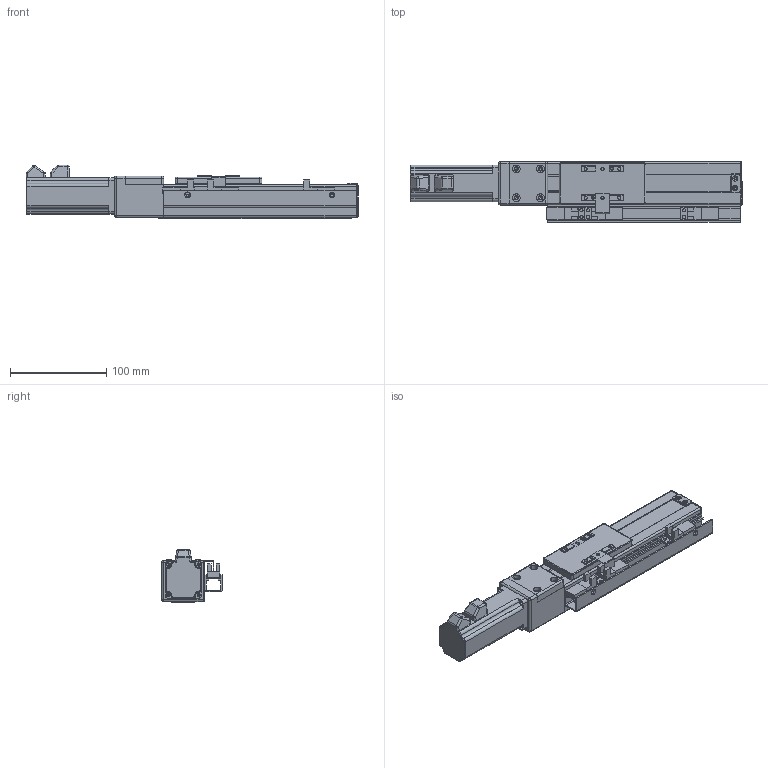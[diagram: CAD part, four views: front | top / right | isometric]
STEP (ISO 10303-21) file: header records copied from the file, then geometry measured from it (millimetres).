
FILE_DESCRIPTION (( 'STEP AP203' ), '1' );
FILE_NAME ('VT4-L12-C-S80-BC-P10-C4.STEP', '2015-10-26T03:44:22', ( '' ), ( '' ), 'SwSTEP 2.0', 'SolidWorks 2013', '' );
FILE_SCHEMA (( 'CONFIG_CONTROL_DESIGN' ));
Length unit declared in the file: millimetre
Products named in the file (15): T4-BC 詩湍; T4-揤輸; SFKR0802佪裝TBI_俴最80; T4-BCヶ傷裔揤啣; T4-賑雄殤; MGW12C-絳寢_俴最80; T4-BCヶ傷裔-100; EE-SX674-WR; VT4-L12-C-S80-BC-P10-C4; T4-耜啣羲耀芞2_俴最80; 侂狟100W MSMD012G1U; T4-裔啣; T6-癹弇羲壽羞_俴最80; T4-覜茼え; T4-綴傷裔
Assembly tree (17 placements, depth 2):
  VT4-L12-C-S80-BC-P10-C4
    T4-綴傷裔
    T4-耜啣羲耀芞2_俴最80  x2
    T4-賑雄殤
    T4-裔啣
    T4-揤輸
    T4-覜茼え
    T6-癹弇羲壽羞_俴最80
    EE-SX674-WR  x3
    SFKR0802佪裝TBI_俴最80
    MGW12C-絳寢_俴最80
    T4-BCヶ傷裔-100
    T4-BCヶ傷裔揤啣
    T4-BC 詩湍
    侂狟100W MSMD012G1U
Bounding box: 345 x 63 x 56 mm (x, y, z)
Volume: 367052.6 mm3; surface area: 191514.4 mm2
Topology: 20 solids, 20 shells, 1141 faces, 3048 edges, 1924 vertices
Faces by surface type: plane 531, cylinder 500, cone 56, torus 30, sphere 24
Entity records: 31348 total; most frequent: CARTESIAN_POINT 5799, DIRECTION 5159, ORIENTED_EDGE 4872, EDGE_CURVE 2436, AXIS2_PLACEMENT_3D 1852, VERTEX_POINT 1558, VECTOR 1455, LINE 1455
